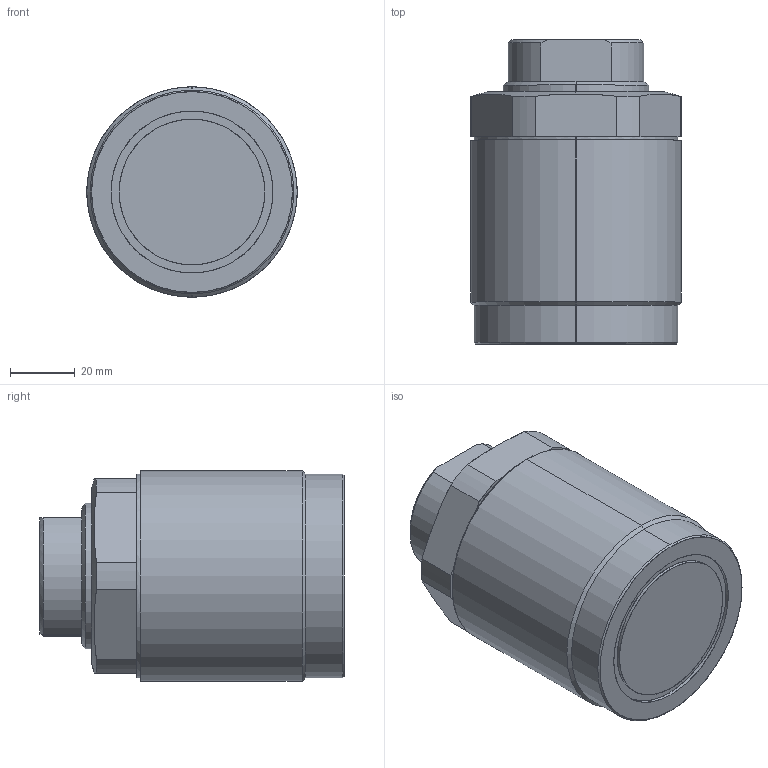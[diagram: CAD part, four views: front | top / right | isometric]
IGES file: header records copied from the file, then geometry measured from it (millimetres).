
Start section: SolidWorks IGES file using analytic representation for surfaces
Global section: file name: D:\karuppas\Clasp\3D model\Thread body cylinder\T03C-M657-M threaded pusher\T03C-M657-M threaded pusher.IGS; native system: SolidWorks 2017; preprocessor: SolidWorks 2017; author: pc; date: 220709.231709; units: millimetre
Bounding box: 65 x 94 x 65 mm (x, y, z)
Surface area: 32433.4 mm2 (no closed solid volume)
Topology: 0 solids, 0 shells, 255 faces, 3313 edges, 3311 vertices
Faces by surface type: bspline 219, revolution 36
